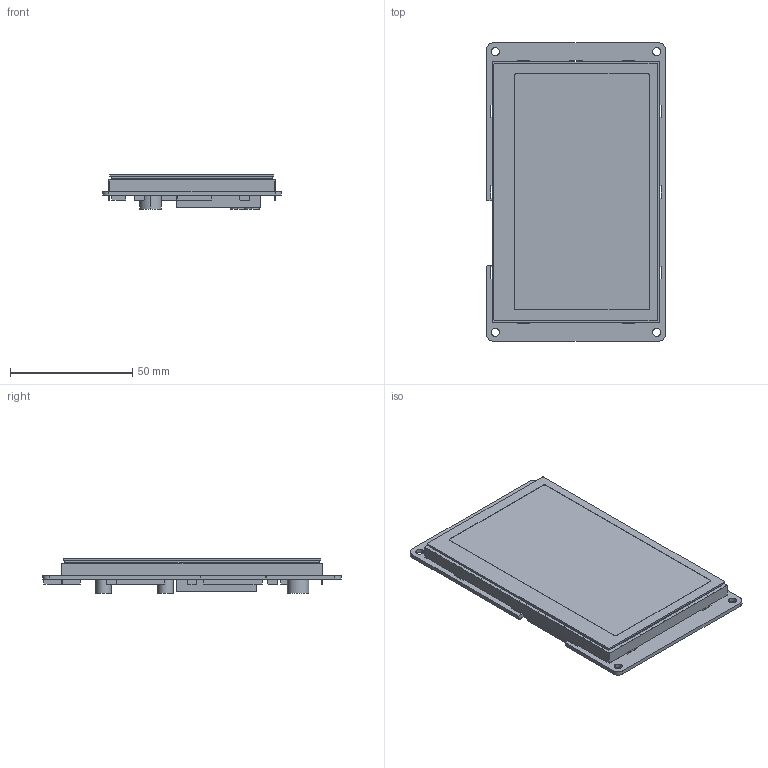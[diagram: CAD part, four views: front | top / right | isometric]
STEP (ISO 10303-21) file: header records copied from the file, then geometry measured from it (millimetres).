
FILE_DESCRIPTION((''),'2;1');
FILE_NAME('3D-DMG48270C043-05WTC-241219','2024-12-19T',('Administrator'),(''),'PRO/ENGINEER BY PARAMETRIC TECHNOLOGY CORPORATION, 2011310','PRO/ENGINEER BY PARAMETRIC TECHNOLOGY CORPORATION, 2011310','');
FILE_SCHEMA(('CONFIG_CONTROL_DESIGN','SHAPE_APPEARANCE_LAYERS_GROUPS'));
Length unit declared in the file: millimetre
Products named in the file (1): 3D-DMG48270C043-05WTC-241219
Bounding box: 73.15 x 121.92 x 14.18 mm (x, y, z)
Volume: 54594.2 mm3; surface area: 51984.8 mm2
Topology: 1 solids, 1 shells, 309 faces, 884 edges, 581 vertices
Faces by surface type: plane 248, cylinder 61
Entity records: 11887 total; most frequent: CARTESIAN_POINT 1774, ORIENTED_EDGE 1768, DIRECTION 1626, EDGE_CURVE 884, VECTOR 760, LINE 760, VERTEX_POINT 581, AXIS2_PLACEMENT_3D 433
